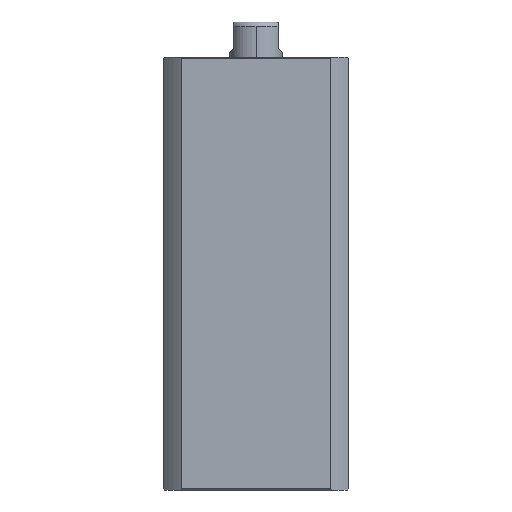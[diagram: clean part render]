
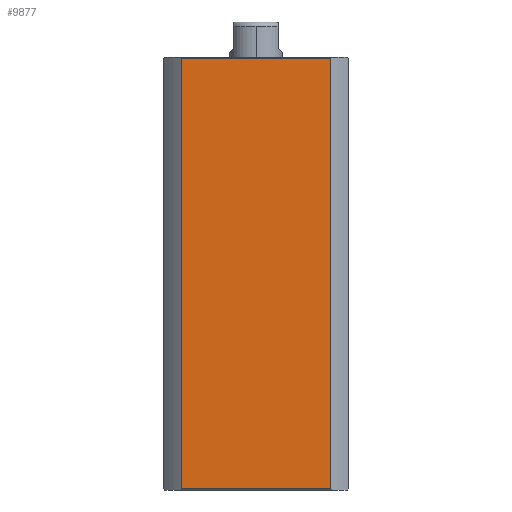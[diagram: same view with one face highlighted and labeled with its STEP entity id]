
A CAD part, left-side view. The second image highlights one B-rep face of the part: STEP entity #9877.
In plain terms, the highlighted planar face has unit normal (-1, 0, 0).
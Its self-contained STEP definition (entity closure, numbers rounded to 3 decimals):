
#645 = EDGE_CURVE ( 'NONE', #10069, #3438, #6777, .T. ) ;
#746 = CARTESIAN_POINT ( 'NONE',  ( -21., -16.971, 97.7 ) ) ;
#1129 = CARTESIAN_POINT ( 'NONE',  ( -21., -16.971, 0.3 ) ) ;
#1201 = EDGE_CURVE ( 'NONE', #5112, #5761, #1807, .T. ) ;
#1779 = CARTESIAN_POINT ( 'NONE',  ( -21., 16.971, 0.3 ) ) ;
#1807 = LINE ( 'NONE', #5224, #11106 ) ;
#2240 = LINE ( 'NONE', #9723, #6478 ) ;
#2256 = AXIS2_PLACEMENT_3D ( 'NONE', #8643, #7809, #2428 ) ;
#2428 = DIRECTION ( 'NONE',  ( 0., 1., 0. ) ) ;
#3438 = VERTEX_POINT ( 'NONE', #10759 ) ;
#4311 = ORIENTED_EDGE ( 'NONE', *, *, #7714, .T. ) ;
#4496 = LINE ( 'NONE', #5851, #8970 ) ;
#5112 = VERTEX_POINT ( 'NONE', #746 ) ;
#5179 = ORIENTED_EDGE ( 'NONE', *, *, #645, .F. ) ;
#5224 = CARTESIAN_POINT ( 'NONE',  ( -21., -16.971, -2. ) ) ;
#5320 = CARTESIAN_POINT ( 'NONE',  ( -21., 16.971, -2. ) ) ;
#5761 = VERTEX_POINT ( 'NONE', #1129 ) ;
#5851 = CARTESIAN_POINT ( 'NONE',  ( -21., 21., 0.3 ) ) ;
#6478 = VECTOR ( 'NONE', #8830, 1000. ) ;
#6777 = LINE ( 'NONE', #5320, #11249 ) ;
#6928 = PLANE ( 'NONE',  #2256 ) ;
#6947 = ORIENTED_EDGE ( 'NONE', *, *, #7072, .T. ) ;
#7072 = EDGE_CURVE ( 'NONE', #10069, #5761, #4496, .T. ) ;
#7714 = EDGE_CURVE ( 'NONE', #5112, #3438, #2240, .T. ) ;
#7809 = DIRECTION ( 'NONE',  ( 1., 0., 0. ) ) ;
#8394 = DIRECTION ( 'NONE',  ( 0., 0., 1. ) ) ;
#8643 = CARTESIAN_POINT ( 'NONE',  ( -21., 21., 98. ) ) ;
#8830 = DIRECTION ( 'NONE',  ( 0., 1., 0. ) ) ;
#8970 = VECTOR ( 'NONE', #11218, 1000. ) ;
#9177 = EDGE_LOOP ( 'NONE', ( #5179, #6947, #11565, #4311 ) ) ;
#9723 = CARTESIAN_POINT ( 'NONE',  ( -21., 21., 97.7 ) ) ;
#9877 = ADVANCED_FACE ( 'NONE', ( #10083 ), #6928, .F. ) ;
#10069 = VERTEX_POINT ( 'NONE', #1779 ) ;
#10083 = FACE_OUTER_BOUND ( 'NONE', #9177, .T. ) ;
#10656 = DIRECTION ( 'NONE',  ( 0., 0., -1. ) ) ;
#10759 = CARTESIAN_POINT ( 'NONE',  ( -21., 16.971, 97.7 ) ) ;
#11106 = VECTOR ( 'NONE', #10656, 1000. ) ;
#11218 = DIRECTION ( 'NONE',  ( 0., -1., 0. ) ) ;
#11249 = VECTOR ( 'NONE', #8394, 1000. ) ;
#11565 = ORIENTED_EDGE ( 'NONE', *, *, #1201, .F. ) ;
